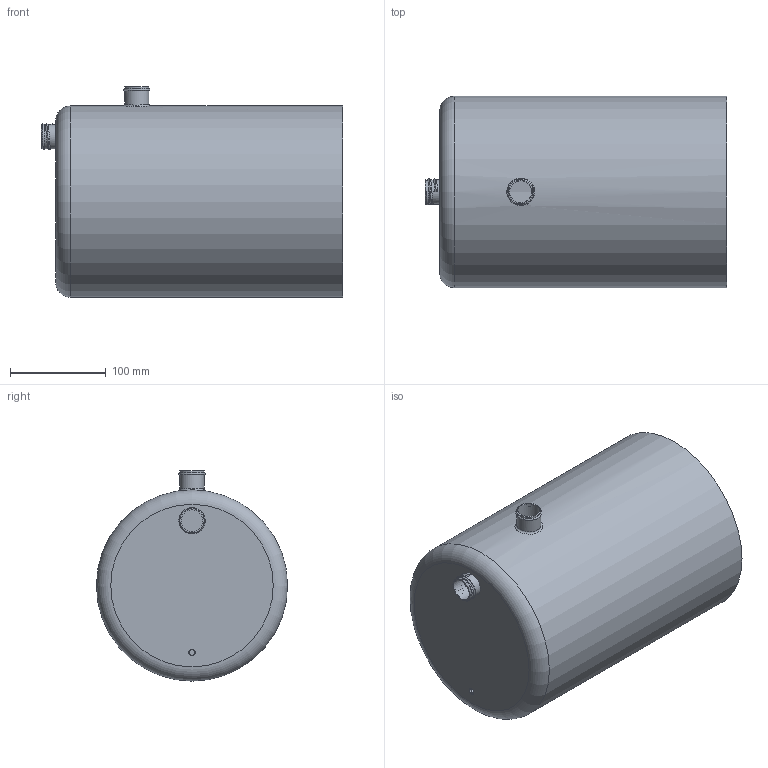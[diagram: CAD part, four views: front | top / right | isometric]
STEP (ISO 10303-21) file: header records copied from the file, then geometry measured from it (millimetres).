
FILE_DESCRIPTION(/* description */ (''),/* implementation_level */ '2;1');
FILE_NAME(/* name */ 'C:\Users\user\Documents\Inventor\Home Ventilator CPAP\Water container.stp',/* time_stamp */ '2020-04-03T13:38:08+02:00',/* author */ ('user'),/* organization */ (''),/* preprocessor_version */ 'ST-DEVELOPER v16.5',/* originating_system */ 'Autodesk Inventor 2017',/* authorisation */ '');
FILE_SCHEMA (('AUTOMOTIVE_DESIGN { 1 0 10303 214 3 1 1 }'));
Length unit declared in the file: millimetre
Products named in the file (1): Water container
Bounding box: 315 x 200 x 220 mm (x, y, z)
Volume: 488195.8 mm3; surface area: 490430.2 mm2
Topology: 1 solids, 1 shells, 25 faces, 56 edges, 35 vertices
Faces by surface type: cylinder 10, plane 8, bspline 3, torus 3, cone 1
Full cylindrical faces by diameter (mm): 6 x1, 23 x2, 25.4 x4, 196 x1, 200 x1
Entity records: 1006 total; most frequent: CARTESIAN_POINT 558, DIRECTION 86, ORIENTED_EDGE 62, EDGE_LOOP 43, AXIS2_PLACEMENT_3D 40, EDGE_CURVE 31, VERTEX_POINT 26, FACE_OUTER_BOUND 23
